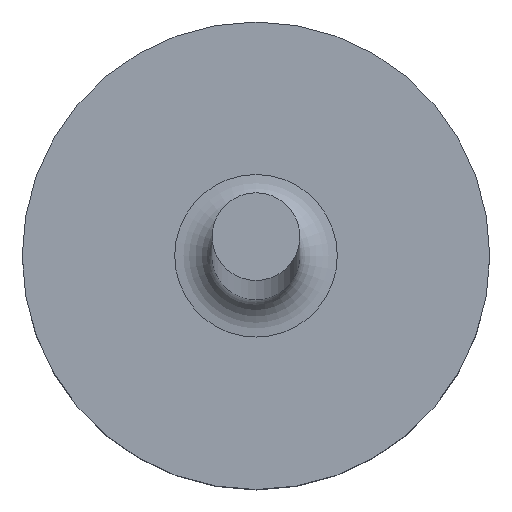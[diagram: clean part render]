
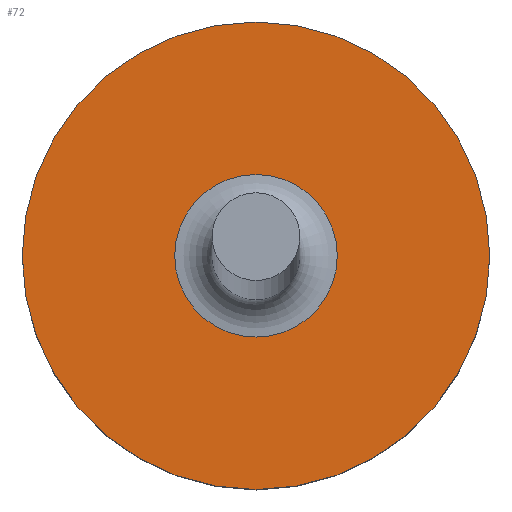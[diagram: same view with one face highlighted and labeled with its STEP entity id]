
A CAD part, top view. The second image highlights one B-rep face of the part: STEP entity #72.
In plain terms, the highlighted planar face has unit normal (0, 0, 1).
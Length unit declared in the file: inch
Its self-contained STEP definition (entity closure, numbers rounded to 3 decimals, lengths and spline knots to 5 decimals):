
#7 = CIRCLE ( 'NONE', #85, 0.125 ) ;
#9 = AXIS2_PLACEMENT_3D ( 'NONE', #58, #26, #159 ) ;
#20 = EDGE_CURVE ( 'NONE', #103, #103, #115, .T. ) ;
#26 = DIRECTION ( 'NONE',  ( 0., 0., -1. ) ) ;
#31 = AXIS2_PLACEMENT_3D ( 'NONE', #99, #53, #111 ) ;
#35 = CARTESIAN_POINT ( 'NONE',  ( -0.125, 0., 0.125 ) ) ;
#36 = VERTEX_POINT ( 'NONE', #35 ) ;
#43 = PLANE ( 'NONE',  #9 ) ;
#46 = FACE_BOUND ( 'NONE', #107, .T. ) ;
#53 = DIRECTION ( 'NONE',  ( 0., 0., -1. ) ) ;
#58 = CARTESIAN_POINT ( 'NONE',  ( 0.125, 0., 0.125 ) ) ;
#72 = ADVANCED_FACE ( 'NONE', ( #46, #91 ), #43, .F. ) ;
#85 = AXIS2_PLACEMENT_3D ( 'NONE', #114, #147, #143 ) ;
#86 = ORIENTED_EDGE ( 'NONE', *, *, #149, .F. ) ;
#90 = ORIENTED_EDGE ( 'NONE', *, *, #20, .T. ) ;
#91 = FACE_OUTER_BOUND ( 'NONE', #154, .T. ) ;
#99 = CARTESIAN_POINT ( 'NONE',  ( 0., 0., 0.125 ) ) ;
#103 = VERTEX_POINT ( 'NONE', #165 ) ;
#107 = EDGE_LOOP ( 'NONE', ( #90 ) ) ;
#111 = DIRECTION ( 'NONE',  ( -1., 0., 0. ) ) ;
#114 = CARTESIAN_POINT ( 'NONE',  ( 0., 0., 0.125 ) ) ;
#115 = CIRCLE ( 'NONE', #31, 0.04345 ) ;
#143 = DIRECTION ( 'NONE',  ( -1., 0., 0. ) ) ;
#147 = DIRECTION ( 'NONE',  ( 0., 0., -1. ) ) ;
#149 = EDGE_CURVE ( 'NONE', #36, #36, #7, .T. ) ;
#154 = EDGE_LOOP ( 'NONE', ( #86 ) ) ;
#159 = DIRECTION ( 'NONE',  ( -1., 0., 0. ) ) ;
#165 = CARTESIAN_POINT ( 'NONE',  ( -0.04345, 0., 0.125 ) ) ;
